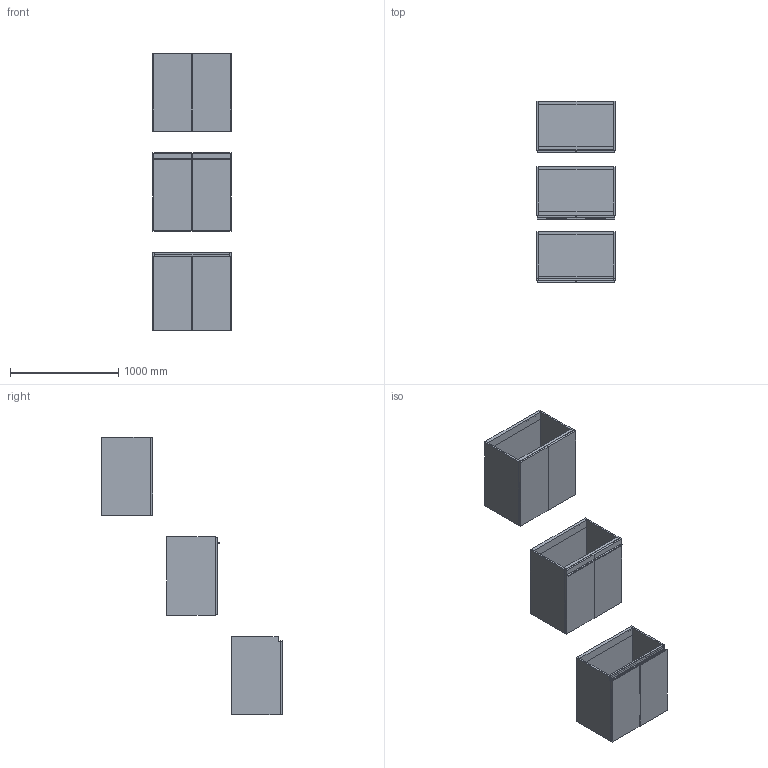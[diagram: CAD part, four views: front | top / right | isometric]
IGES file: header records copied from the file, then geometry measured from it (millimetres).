
Start section: Data from Parasolid IGES Translator 19.0.9, Copyright(c) 2006 Siemens PL M Software. All Rights Reserved.
Global section: file name: noorth-SI-H 72 D 47 W 72_8611.igs; native system: By Siemens PLM Incorporated; preprocessor: XPlus GENERIC/IGES 19.0.9; author: Noname; organization: Noname; date: 20200601.120724; units: metre
Bounding box: 720 x 1669.1 x 2560.01 mm (x, y, z)
Volume: 84918146.5 mm3; surface area: 12983482.1 mm2
Topology: 27 solids, 27 shells, 264 faces, 574 edges, 340 vertices
Faces by surface type: plane 180, cylinder 52, sphere 20, torus 12
